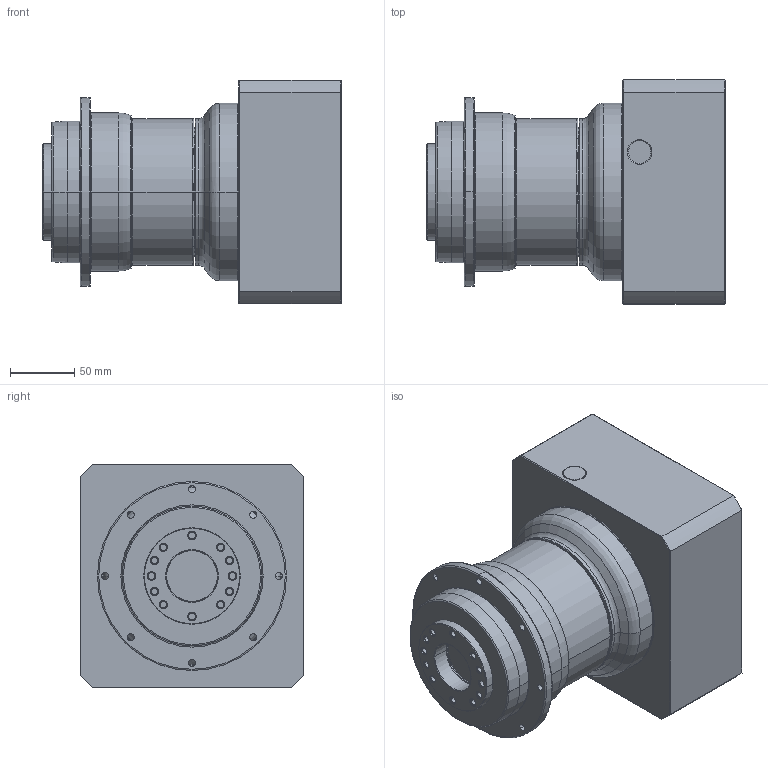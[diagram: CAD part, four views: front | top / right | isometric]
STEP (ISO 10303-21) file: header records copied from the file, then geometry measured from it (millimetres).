
FILE_DESCRIPTION((''),'2;1');
FILE_NAME('PD110_2ST_38-P0411900101_ASM','2016-06-04T',('d01943'),(''),'PRO/ENGINEER BY PARAMETRIC TECHNOLOGY CORPORATION, 2008410','PRO/ENGINEER BY PARAMETRIC TECHNOLOGY CORPORATION, 2008410','');
FILE_SCHEMA(('CONFIG_CONTROL_DESIGN'));
Length unit declared in the file: millimetre
Products named in the file (8): P1355400001; P0367400001; P0275400001; P1324400501; P0411900101; P0503900010; P0941405001; PD110_2ST_38-P0411900101_ASM
Assembly tree (7 placements, depth 2):
  PD110_2ST_38-P0411900101_ASM
    P1355400001
    P0367400001
    P0275400001
    P1324400501
    P0411900101
    P0503900010
    P0941405001
Bounding box: 231.93 x 174 x 174 mm (x, y, z)
Volume: 3528938.3 mm3; surface area: 377335.2 mm2
Topology: 7 solids, 8 shells, 431 faces, 999 edges, 604 vertices
Faces by surface type: cylinder 172, cone 94, torus 76, plane 75, bspline 14
Entity records: 16977 total; most frequent: CARTESIAN_POINT 6764, DIRECTION 2297, ORIENTED_EDGE 1966, AXIS2_PLACEMENT_3D 991, EDGE_CURVE 983, VERTEX_POINT 604, CIRCLE 559, EDGE_LOOP 525
